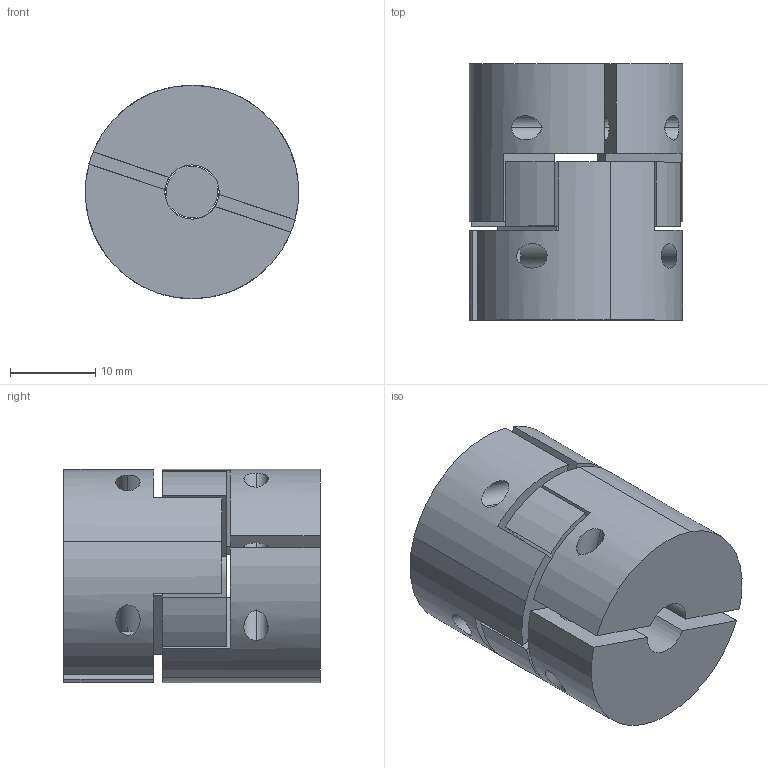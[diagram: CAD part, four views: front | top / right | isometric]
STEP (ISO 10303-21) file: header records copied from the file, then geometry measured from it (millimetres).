
FILE_DESCRIPTION (( 'STEP AP214' ), '1' );
FILE_NAME ('2.5021 Sakarakytkin MM2 25 D6.35_6.35.STEP', '2024-05-30T12:22:58', ( '' ), ( '' ), 'SwSTEP 2.0', 'SolidWorks 2024', '' );
FILE_SCHEMA (( 'AUTOMOTIVE_DESIGN' ));
Length unit declared in the file: millimetre
Products named in the file (1): 2.5021 Sakarakytkin MM2 25 D6.35_6.35
Bounding box: 25 x 30 x 25 mm (x, y, z)
Volume: 12214.3 mm3; surface area: 7220.9 mm2
Topology: 5 solids, 5 shells, 88 faces, 226 edges, 148 vertices
Faces by surface type: plane 50, cylinder 38
Entity records: 3867 total; most frequent: CARTESIAN_POINT 1391, DIRECTION 464, ORIENTED_EDGE 452, EDGE_CURVE 226, AXIS2_PLACEMENT_3D 165, VERTEX_POINT 148, LINE 134, VECTOR 134
